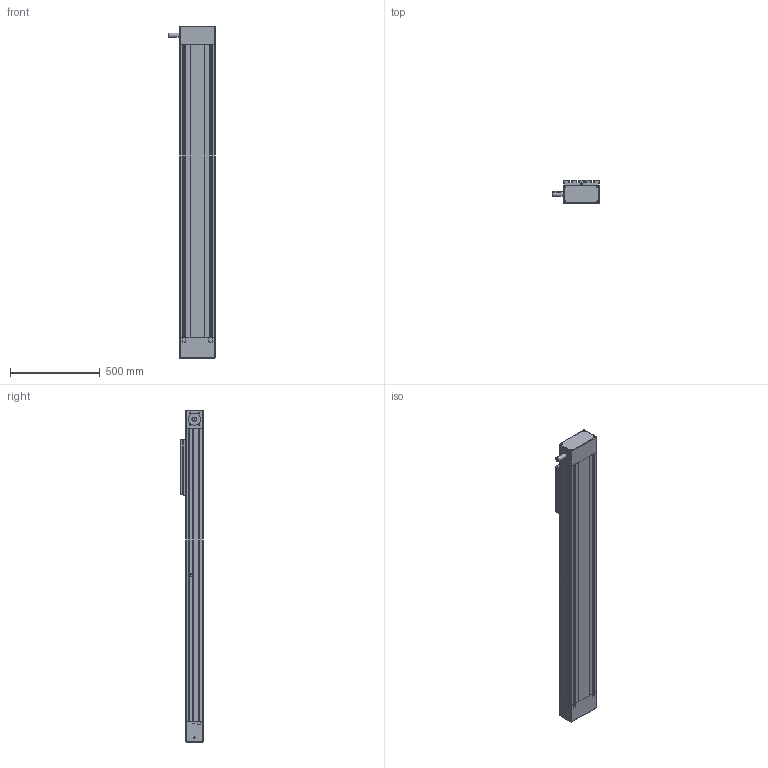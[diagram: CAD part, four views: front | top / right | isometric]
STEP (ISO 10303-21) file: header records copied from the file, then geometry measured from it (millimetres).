
FILE_DESCRIPTION(/* description */ ('STEP AP214'),/* implementation_level */ '2;1');
FILE_NAME(/* name */ 'CTJ 200 1200 L 1L 1(0)',/* time_stamp */ '2026-06-25T11:54:33+02:00',/* author */ ('License CC BY-ND 4.0'),/* organization */ ('CADENAS'),/* preprocessor_version */ 'ST-DEVELOPER v20',/* originating_system */ 'PARTsolutions',/* authorisation */ ' ');
FILE_SCHEMA (('AUTOMOTIVE_DESIGN {1 0 10303 214 3 1 1}'));
Length unit declared in the file: millimetre
Products named in the file (6): CTJ 200 1200 L 1L 1(0); CTJ 200 1L_drive_block; CTJ 200 1200 L 1(0)_profil; CTJ 200_end_block; CTJ 200 L_carriage; CTJ 200 L_connection_plate
Assembly tree (5 placements, depth 2):
  CTJ 200 1200 L 1L 1(0)
    CTJ 200 1L_drive_block
    CTJ 200 1200 L 1(0)_profil
    CTJ 200_end_block
    CTJ 200 L_carriage
    CTJ 200 L_connection_plate
Bounding box: 261 x 127 x 1848 mm (x, y, z)
Volume: 34076666.1 mm3; surface area: 2022253.8 mm2
Topology: 5 solids, 7 shells, 690 faces, 1701 edges, 1123 vertices
Faces by surface type: plane 508, cylinder 139, cone 23, torus 16, sphere 4
Full cylindrical faces by diameter (mm): 0.3 x2, 2.5 x1, 3.242 x1, 5 x4, 6 x8, 6.2 x2, 6.647 x12, 7.4 x2, 8 x24, 12 x8, 14 x18, 16 x14, 24 x1, 68 x1, 87 x1
Entity records: 24247 total; most frequent: CARTESIAN_POINT 3333, DIRECTION 3244, ORIENTED_EDGE 3056, EDGE_CURVE 1528, LINE 1200, VECTOR 1200, VERTEX_POINT 1093, AXIS2_PLACEMENT_3D 1022
